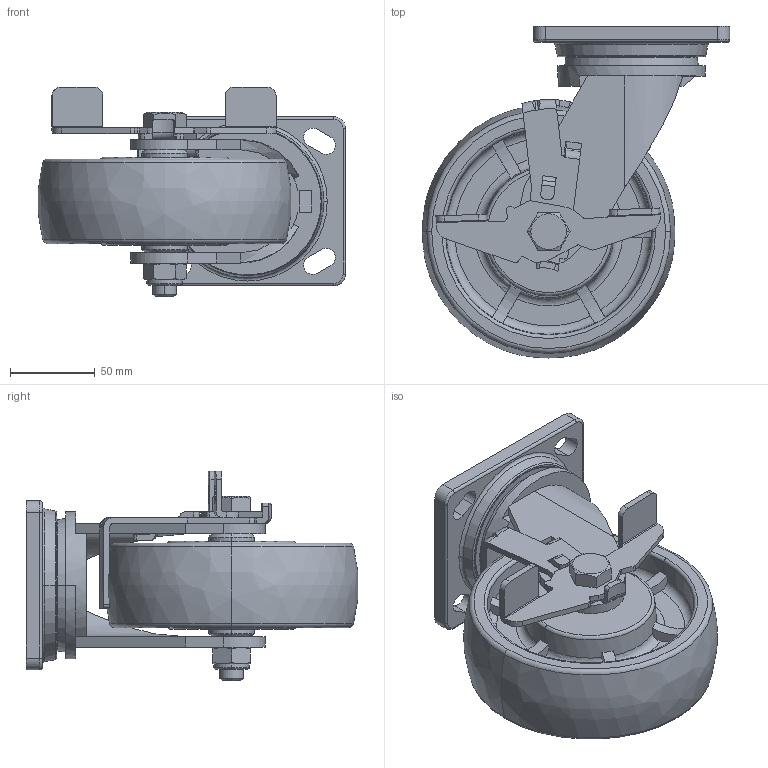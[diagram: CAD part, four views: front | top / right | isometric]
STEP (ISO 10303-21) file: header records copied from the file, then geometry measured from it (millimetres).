
FILE_DESCRIPTION((''),'2;1');
FILE_NAME('78126C_ASM','2021-06-01T',('lenovo'),(''),'PRO/ENGINEER BY PARAMETRIC TECHNOLOGY CORPORATION, 2010280','PRO/ENGINEER BY PARAMETRIC TECHNOLOGY CORPORATION, 2010280','');
FILE_SCHEMA(('CONFIG_CONTROL_DESIGN'));
Length unit declared in the file: millimetre
Products named in the file (9): 7810-201; 766C11; 7810-211; 786-926; 706-15; 700-14; 780C-33; 780-34; 78126C_ASM
Assembly tree (8 placements, depth 2):
  78126C_ASM
    7810-201
    766C11
    7810-211
    786-926
    706-15
    700-14
    780C-33
    780-34
Bounding box: 181.67 x 196.17 x 124 mm (x, y, z)
Volume: 934839.4 mm3; surface area: 178924.4 mm2
Topology: 9 solids, 9 shells, 508 faces, 1348 edges, 873 vertices
Faces by surface type: plane 293, cylinder 118, torus 63, cone 30, bspline 4
Entity records: 16828 total; most frequent: CARTESIAN_POINT 3970, ORIENTED_EDGE 2696, DIRECTION 2596, EDGE_CURVE 1348, AXIS2_PLACEMENT_3D 904, VERTEX_POINT 873, VECTOR 788, LINE 788
